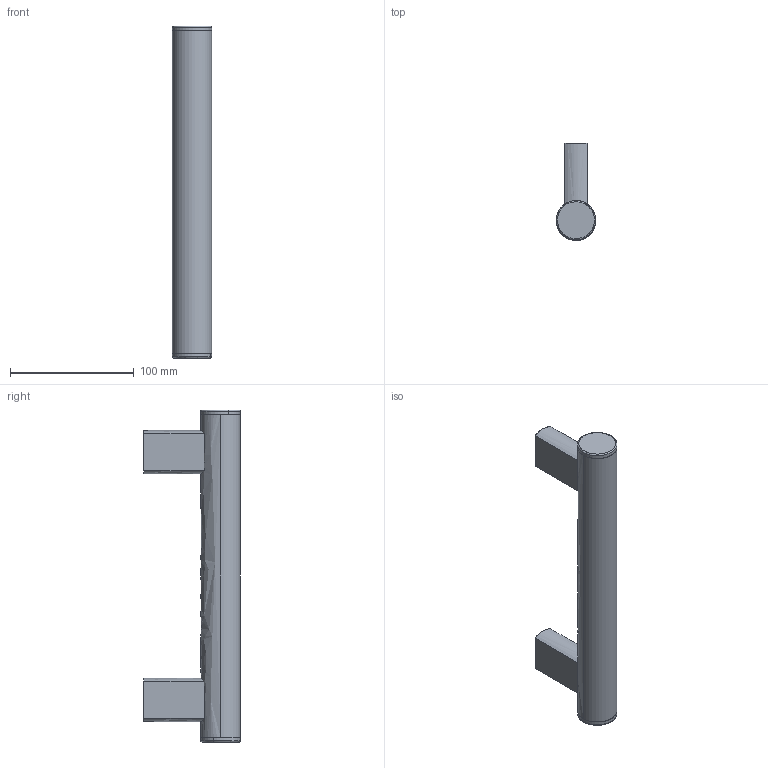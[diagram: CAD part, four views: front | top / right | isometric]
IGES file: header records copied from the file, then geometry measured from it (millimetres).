
Start section: SolidWorks IGES file using analytic representation for surfaces
Global section: file name: C:\Documents and Settings\Deathkiller\桌面\3D IGES\U型把手\MS-737-2 sus\p=200.IGS; native system: SolidWorks 2006 by SolidWorks Corporation; preprocessor: SolidWorks 2006 by SolidWorks Corporation; author: Deathkiller; date: 080624.122027; units: millimetre
Bounding box: 31.8 x 77.9 x 268 mm (x, y, z)
Surface area: 80389.3 mm2 (no closed solid volume)
Topology: 0 solids, 0 shells, 190 faces, 5022 edges, 5022 vertices
Faces by surface type: revolution 142, bspline 48
